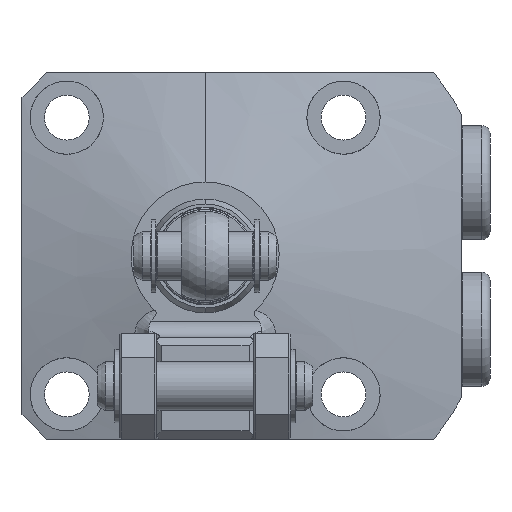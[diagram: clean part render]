
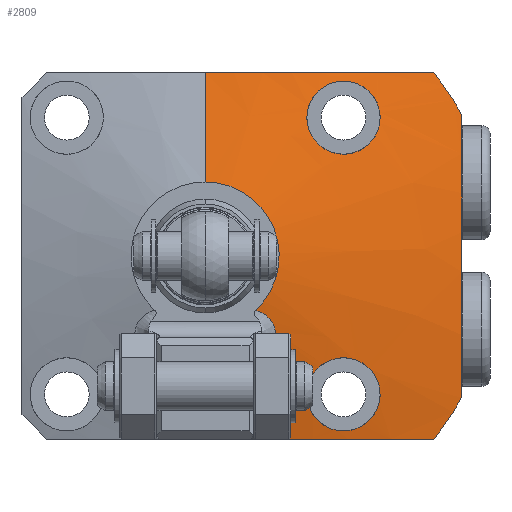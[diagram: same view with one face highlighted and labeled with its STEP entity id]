
A CAD part, left-side view. The second image highlights one B-rep face of the part: STEP entity #2809.
In plain terms, the highlighted conical face has half-angle 75 degrees and reference radius 36.259 mm.
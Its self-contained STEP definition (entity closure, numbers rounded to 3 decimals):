
#1353=B_SPLINE_CURVE_WITH_KNOTS('',3,(#10096,#10097,#10098,#10099,#10100,
#10101,#10102,#10103,#10104,#10105),.UNSPECIFIED.,.F.,.F.,(4,2,2,2,4),(0.,
0.25,0.5,0.75,1.),.UNSPECIFIED.);
#1354=B_SPLINE_CURVE_WITH_KNOTS('',3,(#10114,#10115,#10116,#10117,#10118,
#10119,#10120,#10121,#10122,#10123),.UNSPECIFIED.,.F.,.F.,(4,2,2,2,4),(0.,
0.25,0.5,0.75,1.),.UNSPECIFIED.);
#1370=B_SPLINE_CURVE_WITH_KNOTS('',3,(#10501,#10502,#10503,#10504),
 .UNSPECIFIED.,.F.,.F.,(4,4),(0.,1.),.UNSPECIFIED.);
#1376=B_SPLINE_CURVE_WITH_KNOTS('',3,(#10573,#10574,#10575,#10576,#10577,
#10578),.UNSPECIFIED.,.F.,.F.,(4,2,4),(0.,0.5,1.),.UNSPECIFIED.);
#1379=B_SPLINE_CURVE_WITH_KNOTS('',3,(#10624,#10625,#10626,#10627,#10628,
#10629,#10630,#10631,#10632,#10633,#10634,#10635,#10636,#10637,#10638,#10639),
 .UNSPECIFIED.,.F.,.F.,(4,2,2,2,2,2,2,4),(0.,0.125,0.187,
0.25,0.375,0.438,0.5,1.),.UNSPECIFIED.);
#1383=B_SPLINE_CURVE_WITH_KNOTS('',3,(#10711,#10712,#10713,#10714,#10715),
 .UNSPECIFIED.,.F.,.F.,(4,1,4),(0.,0.5,1.),.UNSPECIFIED.);
#1384=B_SPLINE_CURVE_WITH_KNOTS('',3,(#10719,#10720,#10721,#10722),
 .UNSPECIFIED.,.F.,.F.,(4,4),(0.,1.),.UNSPECIFIED.);
#1385=B_SPLINE_CURVE_WITH_KNOTS('',3,(#10723,#10724,#10725,#10726,#10727,
#10728,#10729,#10730,#10731,#10732),.UNSPECIFIED.,.F.,.F.,(4,2,2,2,4),(0.,
0.25,0.5,0.75,1.),.UNSPECIFIED.);
#1386=B_SPLINE_CURVE_WITH_KNOTS('',3,(#10733,#10734,#10735,#10736,#10737,
#10738,#10739,#10740,#10741,#10742),.UNSPECIFIED.,.F.,.F.,(4,2,2,2,4),(0.,
0.25,0.5,0.75,1.),.UNSPECIFIED.);
#1587=LINE('',#10360,#1885);
#1885=VECTOR('',#8502,1.);
#2201=CONICAL_SURFACE('',#7192,36.259,75.);
#2809=ADVANCED_FACE('',(#3146,#3147,#3148),#2201,.T.);
#3146=FACE_BOUND('',#3380,.T.);
#3147=FACE_BOUND('',#3381,.T.);
#3148=FACE_BOUND('',#3382,.T.);
#3380=EDGE_LOOP('',(#4323,#4324,#4325,#4326,#4327,#4328,#4329,#4330,#4331));
#3381=EDGE_LOOP('',(#4332,#4333));
#3382=EDGE_LOOP('',(#4334,#4335));
#4323=ORIENTED_EDGE('',*,*,#6019,.F.);
#4324=ORIENTED_EDGE('',*,*,#6030,.T.);
#4325=ORIENTED_EDGE('',*,*,#6049,.T.);
#4326=ORIENTED_EDGE('',*,*,#6052,.T.);
#4327=ORIENTED_EDGE('',*,*,#6038,.F.);
#4328=ORIENTED_EDGE('',*,*,#6059,.T.);
#4329=ORIENTED_EDGE('',*,*,#6060,.T.);
#4330=ORIENTED_EDGE('',*,*,#6061,.T.);
#4331=ORIENTED_EDGE('',*,*,#6062,.T.);
#4332=ORIENTED_EDGE('',*,*,#6063,.T.);
#4333=ORIENTED_EDGE('',*,*,#5919,.T.);
#4334=ORIENTED_EDGE('',*,*,#6064,.T.);
#4335=ORIENTED_EDGE('',*,*,#5923,.T.);
#5343=VERTEX_POINT('',#10106);
#5344=VERTEX_POINT('',#10107);
#5347=VERTEX_POINT('',#10124);
#5348=VERTEX_POINT('',#10125);
#5426=VERTEX_POINT('',#10359);
#5427=VERTEX_POINT('',#10361);
#5436=VERTEX_POINT('',#10459);
#5442=VERTEX_POINT('',#10500);
#5443=VERTEX_POINT('',#10505);
#5452=VERTEX_POINT('',#10572);
#5459=VERTEX_POINT('',#10710);
#5460=VERTEX_POINT('',#10716);
#5461=VERTEX_POINT('',#10718);
#5919=EDGE_CURVE('',#5343,#5344,#1353,.T.);
#5923=EDGE_CURVE('',#5347,#5348,#1354,.T.);
#6019=EDGE_CURVE('',#5426,#5427,#1587,.T.);
#6030=EDGE_CURVE('',#5426,#5436,#6610,.T.);
#6038=EDGE_CURVE('',#5442,#5443,#1370,.T.);
#6049=EDGE_CURVE('',#5436,#5452,#1376,.T.);
#6052=EDGE_CURVE('',#5452,#5443,#1379,.T.);
#6059=EDGE_CURVE('',#5442,#5459,#6615,.T.);
#6060=EDGE_CURVE('',#5459,#5460,#1383,.T.);
#6061=EDGE_CURVE('',#5460,#5461,#6616,.T.);
#6062=EDGE_CURVE('',#5461,#5427,#1384,.T.);
#6063=EDGE_CURVE('',#5344,#5343,#1385,.T.);
#6064=EDGE_CURVE('',#5348,#5347,#1386,.T.);
#6610=CIRCLE('',#7182,9.098);
#6615=CIRCLE('',#7190,36.);
#6616=CIRCLE('',#7191,36.);
#7182=AXIS2_PLACEMENT_3D('',#10460,#8506,#8507);
#7190=AXIS2_PLACEMENT_3D('',#10709,#8531,#8532);
#7191=AXIS2_PLACEMENT_3D('',#10717,#8533,#8534);
#7192=AXIS2_PLACEMENT_3D('',#10743,#8535,#8536);
#8502=DIRECTION('',(0.259,0.,0.966));
#8506=DIRECTION('',(1.,0.,0.));
#8507=DIRECTION('',(0.,0.,1.));
#8531=DIRECTION('',(-1.,0.,0.));
#8532=DIRECTION('',(0.,0.,-1.));
#8533=DIRECTION('',(-1.,0.,0.));
#8534=DIRECTION('',(0.,0.,-1.));
#8535=DIRECTION('',(1.,0.,0.));
#8536=DIRECTION('',(0.,0.,1.));
#10096=CARTESIAN_POINT('',(-20.094,-21.5,17.));
#10097=CARTESIAN_POINT('',(-20.292,-21.5,15.805));
#10098=CARTESIAN_POINT('',(-20.574,-21.012,14.656));
#10099=CARTESIAN_POINT('',(-21.183,-19.382,13.011));
#10100=CARTESIAN_POINT('',(-21.513,-18.237,12.519));
#10101=CARTESIAN_POINT('',(-22.023,-15.906,12.482));
#10102=CARTESIAN_POINT('',(-22.198,-14.706,12.947));
#10103=CARTESIAN_POINT('',(-22.205,-12.99,14.631));
#10104=CARTESIAN_POINT('',(-22.039,-12.5,15.816));
#10105=CARTESIAN_POINT('',(-21.784,-12.5,17.));
#10106=CARTESIAN_POINT('',(-20.094,-21.5,17.));
#10107=CARTESIAN_POINT('',(-21.784,-12.5,17.));
#10114=CARTESIAN_POINT('',(-20.094,-17.,-21.5));
#10115=CARTESIAN_POINT('',(-20.292,-15.805,-21.5));
#10116=CARTESIAN_POINT('',(-20.574,-14.656,-21.012));
#10117=CARTESIAN_POINT('',(-21.183,-13.011,-19.382));
#10118=CARTESIAN_POINT('',(-21.513,-12.519,-18.237));
#10119=CARTESIAN_POINT('',(-22.023,-12.482,-15.906));
#10120=CARTESIAN_POINT('',(-22.198,-12.947,-14.706));
#10121=CARTESIAN_POINT('',(-22.205,-14.631,-12.99));
#10122=CARTESIAN_POINT('',(-22.039,-15.816,-12.5));
#10123=CARTESIAN_POINT('',(-21.784,-17.,-12.5));
#10124=CARTESIAN_POINT('',(-20.094,-17.,-21.5));
#10125=CARTESIAN_POINT('',(-21.784,-17.,-12.5));
#10359=CARTESIAN_POINT('',(-25.,0.,9.098));
#10360=CARTESIAN_POINT('',(-17.722,0.,36.259));
#10361=CARTESIAN_POINT('',(-21.409,0.,22.5));
#10459=CARTESIAN_POINT('',(-25.,-6.188,-6.67));
#10460=CARTESIAN_POINT('',(-25.,0.,0.));
#10500=CARTESIAN_POINT('',(-17.792,-28.102,-22.5));
#10501=CARTESIAN_POINT('',(-17.792,-28.102,-22.5));
#10502=CARTESIAN_POINT('',(-19.127,-21.718,-22.5));
#10503=CARTESIAN_POINT('',(-20.328,-15.311,-22.5));
#10504=CARTESIAN_POINT('',(-20.963,-8.811,-22.5));
#10505=CARTESIAN_POINT('',(-20.963,-8.811,-22.5));
#10572=CARTESIAN_POINT('',(-23.972,-8.654,-9.615));
#10573=CARTESIAN_POINT('',(-25.,-6.188,-6.67));
#10574=CARTESIAN_POINT('',(-24.855,-6.839,-6.806));
#10575=CARTESIAN_POINT('',(-24.653,-7.496,-7.201));
#10576=CARTESIAN_POINT('',(-24.295,-8.362,-8.225));
#10577=CARTESIAN_POINT('',(-24.116,-8.64,-8.901));
#10578=CARTESIAN_POINT('',(-23.972,-8.654,-9.615));
#10624=CARTESIAN_POINT('',(-23.972,-8.654,-9.615));
#10625=CARTESIAN_POINT('',(-23.871,-8.663,-10.113));
#10626=CARTESIAN_POINT('',(-23.763,-8.673,-10.631));
#10627=CARTESIAN_POINT('',(-23.589,-8.687,-11.439));
#10628=CARTESIAN_POINT('',(-23.53,-8.692,-11.714));
#10629=CARTESIAN_POINT('',(-23.407,-8.701,-12.274));
#10630=CARTESIAN_POINT('',(-23.334,-8.706,-12.601));
#10631=CARTESIAN_POINT('',(-23.167,-8.717,-13.347));
#10632=CARTESIAN_POINT('',(-23.049,-8.724,-13.865));
#10633=CARTESIAN_POINT('',(-22.863,-8.735,-14.67));
#10634=CARTESIAN_POINT('',(-22.799,-8.739,-14.944));
#10635=CARTESIAN_POINT('',(-22.669,-8.746,-15.501));
#10636=CARTESIAN_POINT('',(-22.589,-8.75,-15.839));
#10637=CARTESIAN_POINT('',(-22.091,-8.774,-17.942));
#10638=CARTESIAN_POINT('',(-21.568,-8.794,-20.083));
#10639=CARTESIAN_POINT('',(-20.963,-8.811,-22.5));
#10709=CARTESIAN_POINT('',(-17.792,0.,0.));
#10710=CARTESIAN_POINT('',(-17.792,-31.5,-17.428));
#10711=CARTESIAN_POINT('',(-17.792,-31.5,-17.428));
#10712=CARTESIAN_POINT('',(-18.545,-31.5,-11.619));
#10713=CARTESIAN_POINT('',(-19.45,-31.5,0.));
#10714=CARTESIAN_POINT('',(-18.545,-31.5,11.619));
#10715=CARTESIAN_POINT('',(-17.792,-31.5,17.428));
#10716=CARTESIAN_POINT('',(-17.792,-31.5,17.428));
#10717=CARTESIAN_POINT('',(-17.792,0.,0.));
#10718=CARTESIAN_POINT('',(-17.792,-28.102,22.5));
#10719=CARTESIAN_POINT('',(-17.792,-28.102,22.5));
#10720=CARTESIAN_POINT('',(-19.731,-18.829,22.5));
#10721=CARTESIAN_POINT('',(-21.409,-9.523,22.5));
#10722=CARTESIAN_POINT('',(-21.409,0.,22.5));
#10723=CARTESIAN_POINT('',(-21.784,-12.5,17.));
#10724=CARTESIAN_POINT('',(-21.529,-12.5,18.182));
#10725=CARTESIAN_POINT('',(-21.203,-12.973,19.318));
#10726=CARTESIAN_POINT('',(-20.593,-14.589,20.972));
#10727=CARTESIAN_POINT('',(-20.307,-15.74,21.477));
#10728=CARTESIAN_POINT('',(-19.909,-18.088,21.522));
#10729=CARTESIAN_POINT('',(-19.793,-19.292,21.054));
#10730=CARTESIAN_POINT('',(-19.787,-21.005,19.377));
#10731=CARTESIAN_POINT('',(-19.895,-21.5,18.193));
#10732=CARTESIAN_POINT('',(-20.094,-21.5,17.));
#10733=CARTESIAN_POINT('',(-21.784,-17.,-12.5));
#10734=CARTESIAN_POINT('',(-21.529,-18.182,-12.5));
#10735=CARTESIAN_POINT('',(-21.203,-19.318,-12.973));
#10736=CARTESIAN_POINT('',(-20.593,-20.972,-14.589));
#10737=CARTESIAN_POINT('',(-20.307,-21.477,-15.74));
#10738=CARTESIAN_POINT('',(-19.909,-21.522,-18.088));
#10739=CARTESIAN_POINT('',(-19.793,-21.054,-19.292));
#10740=CARTESIAN_POINT('',(-19.787,-19.377,-21.005));
#10741=CARTESIAN_POINT('',(-19.895,-18.193,-21.5));
#10742=CARTESIAN_POINT('',(-20.094,-17.,-21.5));
#10743=CARTESIAN_POINT('',(-17.722,0.,0.));
